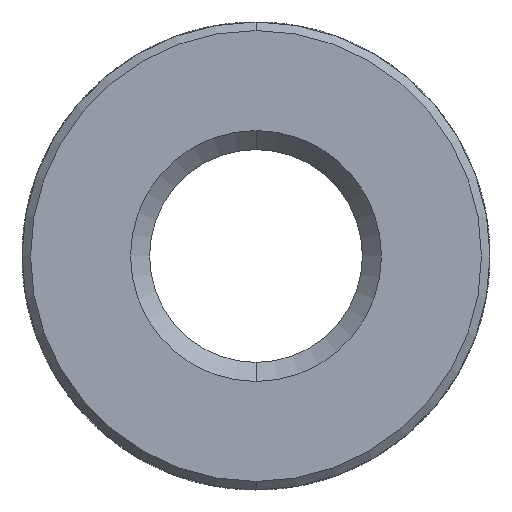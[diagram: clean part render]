
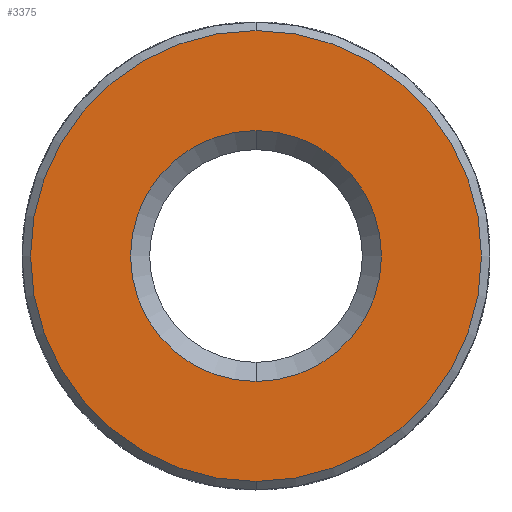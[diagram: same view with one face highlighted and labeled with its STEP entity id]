
A CAD part, front view. The second image highlights one B-rep face of the part: STEP entity #3375.
In plain terms, the highlighted planar face has unit normal (0, -1, 0).
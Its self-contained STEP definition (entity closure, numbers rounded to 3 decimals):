
#97 = CIRCLE ( 'NONE', #3963, 1.475 ) ;
#355 = DIRECTION ( 'NONE',  ( 0., 0., -1. ) ) ;
#532 = DIRECTION ( 'NONE',  ( 0., 0., -1. ) ) ;
#634 = CARTESIAN_POINT ( 'NONE',  ( 0., -4.8, 0. ) ) ;
#636 = CARTESIAN_POINT ( 'NONE',  ( 0., -4.8, 2.75 ) ) ;
#649 = ORIENTED_EDGE ( 'NONE', *, *, #1315, .T. ) ;
#834 = CARTESIAN_POINT ( 'NONE',  ( 0., -4.8, 1.475 ) ) ;
#928 = DIRECTION ( 'NONE',  ( 0., 0., -1. ) ) ;
#943 = CARTESIAN_POINT ( 'NONE',  ( 0., -4.8, 0. ) ) ;
#1111 = DIRECTION ( 'NONE',  ( 0., -1., 0. ) ) ;
#1157 = CARTESIAN_POINT ( 'NONE',  ( 0., -4.8, -2.65 ) ) ;
#1254 = PLANE ( 'NONE',  #3387 ) ;
#1315 = EDGE_CURVE ( 'NONE', #2401, #1738, #3296, .T. ) ;
#1400 = EDGE_LOOP ( 'NONE', ( #3039, #649 ) ) ;
#1577 = DIRECTION ( 'NONE',  ( 0., 1., 0. ) ) ;
#1590 = DIRECTION ( 'NONE',  ( 0., 0., -1. ) ) ;
#1654 = FACE_OUTER_BOUND ( 'NONE', #3077, .T. ) ;
#1738 = VERTEX_POINT ( 'NONE', #3551 ) ;
#1885 = FACE_BOUND ( 'NONE', #1400, .T. ) ;
#2038 = DIRECTION ( 'NONE',  ( 0., 0., -1. ) ) ;
#2083 = AXIS2_PLACEMENT_3D ( 'NONE', #634, #2141, #1590 ) ;
#2141 = DIRECTION ( 'NONE',  ( 0., 1., 0. ) ) ;
#2173 = DIRECTION ( 'NONE',  ( 0., -1., 0. ) ) ;
#2368 = DIRECTION ( 'NONE',  ( 0., -1., 0. ) ) ;
#2371 = AXIS2_PLACEMENT_3D ( 'NONE', #3917, #1111, #2038 ) ;
#2386 = EDGE_CURVE ( 'NONE', #3705, #3845, #2406, .T. ) ;
#2392 = CIRCLE ( 'NONE', #2949, 2.65 ) ;
#2401 = VERTEX_POINT ( 'NONE', #834 ) ;
#2406 = CIRCLE ( 'NONE', #2371, 2.65 ) ;
#2598 = ORIENTED_EDGE ( 'NONE', *, *, #3757, .T. ) ;
#2748 = ORIENTED_EDGE ( 'NONE', *, *, #2386, .T. ) ;
#2949 = AXIS2_PLACEMENT_3D ( 'NONE', #3958, #2368, #532 ) ;
#3039 = ORIENTED_EDGE ( 'NONE', *, *, #3425, .T. ) ;
#3077 = EDGE_LOOP ( 'NONE', ( #2748, #2598 ) ) ;
#3296 = CIRCLE ( 'NONE', #2083, 1.475 ) ;
#3375 = ADVANCED_FACE ( 'NONE', ( #1654, #1885 ), #1254, .T. ) ;
#3387 = AXIS2_PLACEMENT_3D ( 'NONE', #636, #2173, #355 ) ;
#3425 = EDGE_CURVE ( 'NONE', #1738, #2401, #97, .T. ) ;
#3551 = CARTESIAN_POINT ( 'NONE',  ( 0., -4.8, -1.475 ) ) ;
#3705 = VERTEX_POINT ( 'NONE', #3903 ) ;
#3757 = EDGE_CURVE ( 'NONE', #3845, #3705, #2392, .T. ) ;
#3845 = VERTEX_POINT ( 'NONE', #1157 ) ;
#3903 = CARTESIAN_POINT ( 'NONE',  ( 0., -4.8, 2.65 ) ) ;
#3917 = CARTESIAN_POINT ( 'NONE',  ( 0., -4.8, 0. ) ) ;
#3958 = CARTESIAN_POINT ( 'NONE',  ( 0., -4.8, 0. ) ) ;
#3963 = AXIS2_PLACEMENT_3D ( 'NONE', #943, #1577, #928 ) ;
